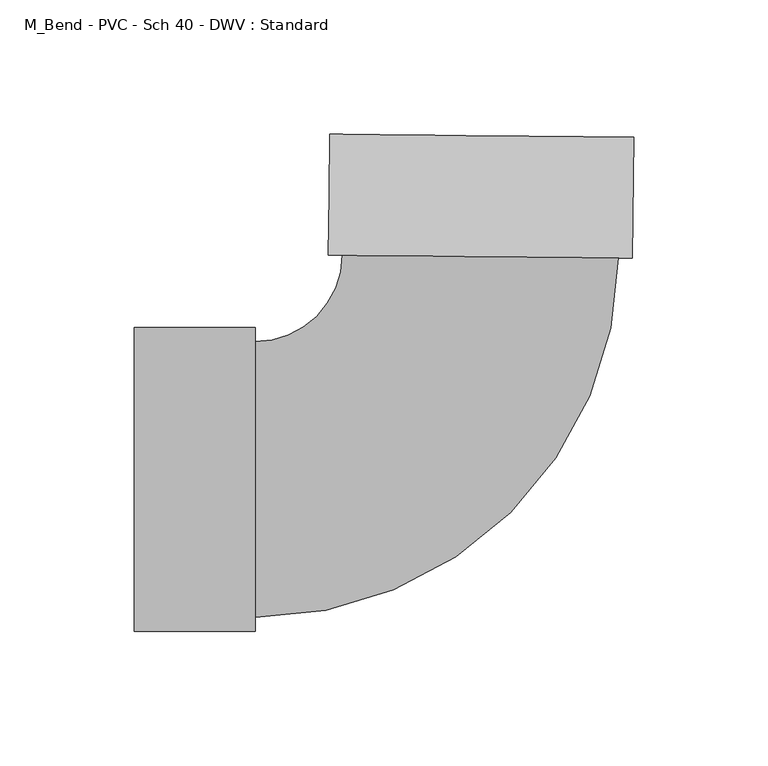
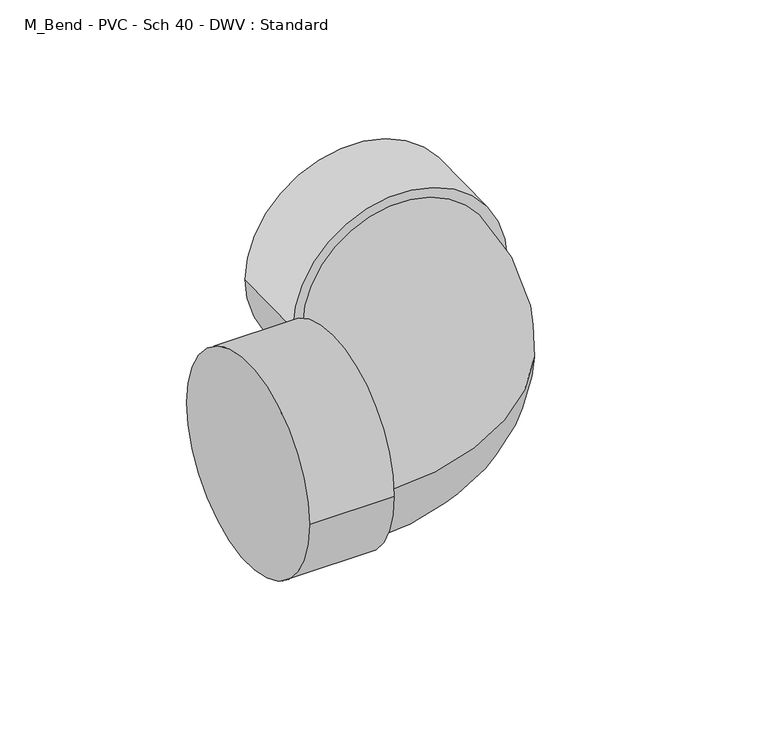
"""IFC4 building model written with IfcOpenShell, lengths in millimetres: pipe fitting geometry, M_Bend - PVC - Sch 40 - DWV : Standard."""

from ifc_helpers import new_model, si_unit, point, frame, origin, place, context, project, spatial, circle_curve, ellipse_curve, trimmed, source, transform, mapped, element, save
from ifc_brep_helpers import plane_surface, cylinder_surface, revolved_surface, advanced_brep


def m_bend_pvc_sch_40_dwv_standard_bfb77a87(model_context):
    return source(origin(), model_context, "Body", "AdvancedBrep", [
        advanced_brep(
        [(-128.0140625, -56.5871094, 0.0), (-128.0140625, 56.5871094, 0.0), (-83.0140625, -56.5871094, 0.0), (-83.0140625, 56.5871094, 0.0), (-83.0140625, -51.3640625, 0.0), (-83.0140625, 51.3640625, 0.0), (-50.5296669, 83.5245727, 0.0), (52.1933008, 82.4952171, 0.0), (57.4160854, 82.4428812, 0.0), (-55.7524516, 83.5769087, 0.0), (57.8669941, 127.440622, 0.0), (-55.3015429, 128.5746495, 0.0)],
        [
            (0, 1, circle_curve(frame((-128.0140625, 0.0, 0.0), z_axis=(-1.0, 0.0, 0.0), x_axis=(0.0, 1.0, 0.0)), 56.5871094)),
            (1, 0, circle_curve(frame((-128.0140625, 0.0, 0.0), z_axis=(-1.0, 0.0, 0.0), x_axis=(0.0, 1.0, 0.0)), 56.5871094)),
            (2, 3, circle_curve(frame((-83.0140625, 0.0, 0.0), z_axis=(1.0, 0.0, 0.0), x_axis=(0.0, 1.0, 0.0)), 56.5871094)),
            (3, 2, circle_curve(frame((-83.0140625, 0.0, 0.0), z_axis=(1.0, 0.0, 0.0), x_axis=(0.0, 1.0, 0.0)), 56.5871094)),
            (4, 5, circle_curve(frame((-83.0140625, 0.0, 0.0), z_axis=(-1.0, 0.0, 0.0), x_axis=(0.0, 1.0, 0.0)), 51.3640625)),
            (5, 4, circle_curve(frame((-83.0140625, 0.0, 0.0), z_axis=(-1.0, 0.0, 0.0), x_axis=(0.0, 1.0, 0.0)), 51.3640625)),
            (0, 2),
            (3, 1),
            (6, 5, circle_curve(frame((-83.0140625, 83.850089, 0.0), z_axis=(0.0, 0.0, -1.0), x_axis=(0.0, -1.0, 0.0)), 32.4860265)),
            (4, 7, circle_curve(frame((-83.0140625, 83.850089, 0.0), z_axis=(0.0, 0.0, 1.0), x_axis=(0.0, -1.0, 0.0)), 135.2141515)),
            (7, 6, circle_curve(frame((0.8318169, 83.0098949, 0.0), z_axis=(-0.010020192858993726, -0.999949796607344, 0.0), x_axis=(-0.999949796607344, 0.010020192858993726, 0.0)), 51.3640625)),
            (6, 7, circle_curve(frame((0.8318169, 83.0098949, 0.0), z_axis=(-0.010020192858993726, -0.999949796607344, 0.0), x_axis=(-0.999949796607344, 0.010020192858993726, 0.0)), 51.3640625)),
            (8, 9, circle_curve(frame((0.8318169, 83.0098949, 0.0), z_axis=(-0.01002019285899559, -0.9999497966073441, 0.0), x_axis=(-0.9999497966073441, 0.01002019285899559, 0.0)), 56.5871094)),
            (9, 8, circle_curve(frame((0.8318169, 83.0098949, 0.0), z_axis=(-0.01002019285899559, -0.9999497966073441, 0.0), x_axis=(-0.9999497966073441, 0.01002019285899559, 0.0)), 56.5871094)),
            (10, 11, circle_curve(frame((1.2827256, 128.0076358, 0.0), z_axis=(0.01002019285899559, 0.9999497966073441, 0.0), x_axis=(-0.9999497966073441, 0.01002019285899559, 0.0)), 56.5871094)),
            (11, 10, circle_curve(frame((1.2827256, 128.0076358, 0.0), z_axis=(0.01002019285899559, 0.9999497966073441, 0.0), x_axis=(-0.9999497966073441, 0.01002019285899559, 0.0)), 56.5871094)),
            (8, 10),
            (11, 9),
        ],
        [
            plane_surface(frame((-128.0140625, 0.0, 0.0), z_axis=(-1.0, 0.0, 0.0), x_axis=(0.0, 0.0, 1.0))),
            plane_surface(frame((-83.0140625, 0.0, 0.0), z_axis=(1.0, 0.0, 0.0), x_axis=(0.0, 0.0, 1.0))),
            cylinder_surface(frame((-128.0140625, 0.0, 0.0), z_axis=(-1.0, 0.0, 0.0), x_axis=(0.0, 1.0, 0.0)), 56.5871094),
            revolved_surface(trimmed(ellipse_curve(frame((-83.0140625, 0.0, 0.0), z_axis=(-1.0, 0.0, 0.0), x_axis=(0.0, 1.0, 0.0)), 51.3640625, 51.3640625), [point((-83.0140625, -51.3640625, 0.0))], [point((-83.0140625, 51.3640625, 0.0))], True, "CARTESIAN"), (-83.0140625, 83.850089, 0.0), (0.0, 0.0, 1.0)),
            revolved_surface(trimmed(ellipse_curve(frame((-83.0140625, 0.0, 0.0), z_axis=(-1.0, 0.0, 0.0), x_axis=(0.0, 1.0, 0.0)), 51.3640625, 51.3640625), [point((-83.0140625, 51.3640625, 0.0))], [point((-83.0140625, -51.3640625, 0.0))], True, "CARTESIAN"), (-83.0140625, 83.850089, 0.0), (0.0, 0.0, 1.0)),
            plane_surface(frame((0.8318169, 83.0098949, 0.0), z_axis=(-0.01002019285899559, -0.9999497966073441, 0.0), x_axis=(0.0, 0.0, 1.0))),
            plane_surface(frame((1.2827256, 128.0076358, 0.0), z_axis=(0.01002019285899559, 0.9999497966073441, 0.0), x_axis=(0.0, 0.0, 1.0))),
            cylinder_surface(frame((0.8318169, 83.0098949, 0.0), z_axis=(-0.01002019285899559, -0.9999497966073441, 0.0), x_axis=(-0.9999497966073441, 0.01002019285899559, 0.0)), 56.5871094),
        ],
        [
            (0, [[1, 2]]),
            (1, [[3, 4], [5, 6]]),
            (2, [[-1, 7, -4, 8]]),
            (2, [[-2, -8, -3, -7]]),
            (3, [[9, -5, 10, 11]]),
            (4, [[-9, 12, -10, -6]]),
            (5, [[13, 14], [-11, -12]]),
            (6, [[15, 16]]),
            (7, [[-13, 17, -16, 18]]),
            (7, [[-14, -18, -15, -17]]),
        ],
    ),
    ])


if __name__ == "__main__":
    model = new_model("IFC4")
    model_context = context("Model", 3, world=origin())
    ifc_project = project(units=[si_unit("LENGTHUNIT", "METRE", prefix="MILLI")], contexts=[model_context])
    site = spatial("IfcSite", under=ifc_project)
    building = spatial("IfcBuilding", under=site)
    placement = place(None, origin())
    m_bend_pvc_sch_40_dwv_standard_shape = m_bend_pvc_sch_40_dwv_standard_bfb77a87(model_context)
    element("IfcPipeFitting", 1, ObjectType="M_Bend - PVC - Sch 40 - DWV : Standard", at=placement, inside=building, context=model_context, shape_type="MappedRepresentation", body=[
        mapped(m_bend_pvc_sch_40_dwv_standard_shape, transform((0.0, 0.0, 0.0), x_axis=(1.0, 0.0, 0.0), y_axis=(0.0, 1.0, 0.0), z_axis=(0.0, 0.0, 1.0))),
    ])
    save(model, "model.ifc")
